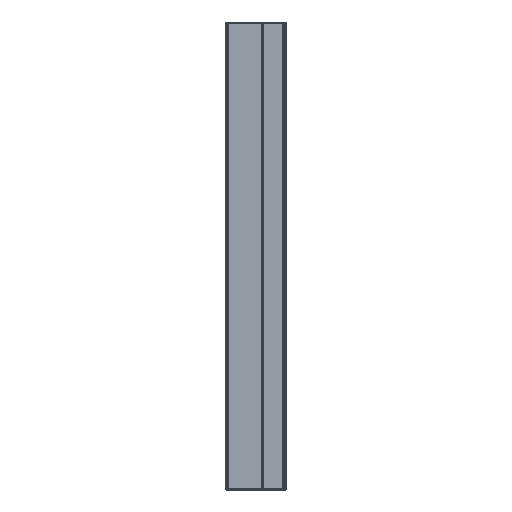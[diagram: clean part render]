
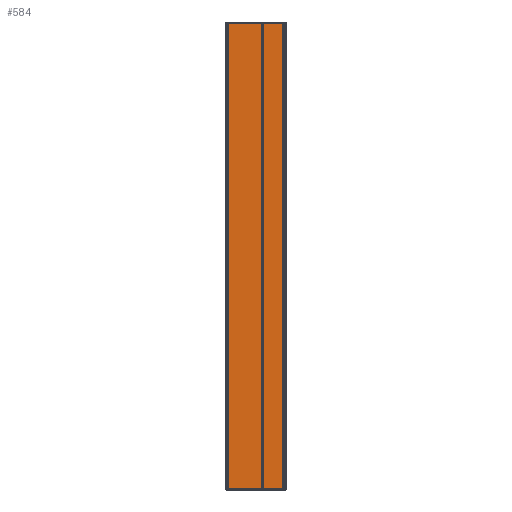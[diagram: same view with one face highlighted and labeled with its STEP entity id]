
A CAD part, left-side view. The second image highlights one B-rep face of the part: STEP entity #584.
In plain terms, the highlighted planar face has unit normal (-1, 0, 0).
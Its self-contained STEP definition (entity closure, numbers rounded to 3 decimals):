
#584=ADVANCED_FACE('',(#2168),#2170,.T.);
#2168=FACE_BOUND('',#2169,.T.);
#2169=EDGE_LOOP('',(#7366,#7367,#7368,#7369));
#2170=PLANE('',#2171);
#2171=AXIS2_PLACEMENT_3D('',#2172,#2173,#2174);
#2172=CARTESIAN_POINT('',(-25.,4.,-268.));
#2173=DIRECTION('',(-1.,0.,0.));
#2174=DIRECTION('',(0.,-1.,0.));
#7366=ORIENTED_EDGE('',*,*,#10547,.T.);
#7367=ORIENTED_EDGE('',*,*,#10924,.T.);
#7368=ORIENTED_EDGE('',*,*,#10765,.F.);
#7369=ORIENTED_EDGE('',*,*,#10925,.F.);
#10547=EDGE_CURVE('',#12606,#12604,#12607,.F.);
#10765=EDGE_CURVE('',#13037,#12768,#13039,.T.);
#10924=EDGE_CURVE('',#12604,#12768,#13251,.T.);
#10925=EDGE_CURVE('',#12606,#13037,#13252,.T.);
#12604=VERTEX_POINT('',#16149);
#12606=VERTEX_POINT('',#16154);
#12607=LINE('',#16155,#16156);
#12768=VERTEX_POINT('',#16535);
#13037=VERTEX_POINT('',#17155);
#13039=LINE('',#17160,#17161);
#13251=LINE('',#17723,#17724);
#13252=LINE('',#17726,#17727);
#16149=CARTESIAN_POINT('',(-25.,-63.75,-268.));
#16154=CARTESIAN_POINT('',(-25.,4.,-268.));
#16155=CARTESIAN_POINT('',(-25.,-63.75,-268.));
#16156=VECTOR('',#16157,1.);
#16157=DIRECTION('',(0.,1.,0.));
#16535=CARTESIAN_POINT('',(-25.,-63.75,268.));
#17155=CARTESIAN_POINT('',(-25.,4.,268.));
#17160=CARTESIAN_POINT('',(-25.,4.,268.));
#17161=VECTOR('',#17162,1.);
#17162=DIRECTION('',(0.,-1.,0.));
#17723=CARTESIAN_POINT('',(-25.,-63.75,-268.));
#17724=VECTOR('',#17725,1.);
#17725=DIRECTION('',(0.,0.,1.));
#17726=CARTESIAN_POINT('',(-25.,4.,-268.));
#17727=VECTOR('',#17728,1.);
#17728=DIRECTION('',(0.,0.,1.));
